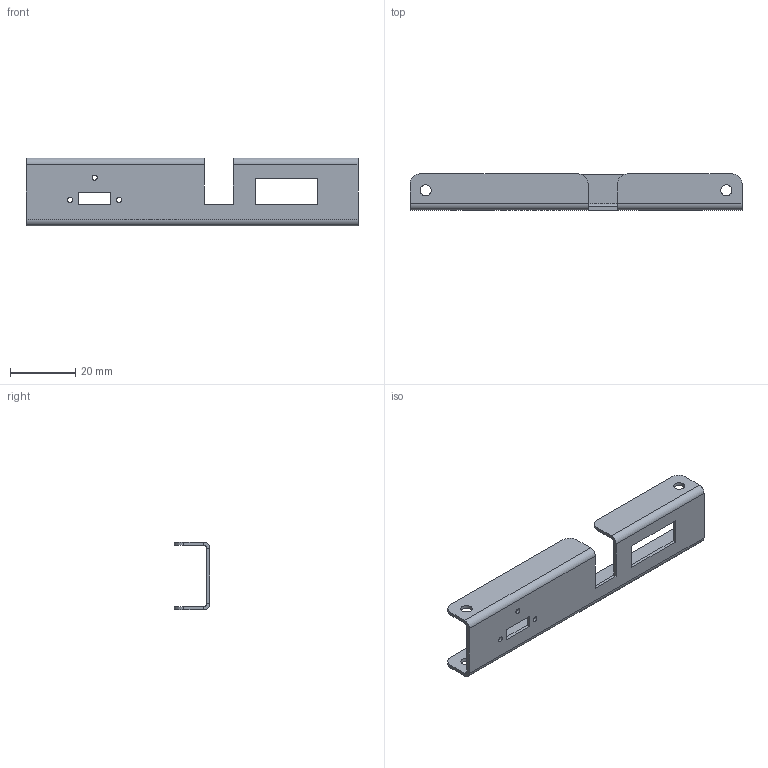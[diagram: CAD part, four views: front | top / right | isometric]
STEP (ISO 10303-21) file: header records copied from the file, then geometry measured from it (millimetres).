
FILE_DESCRIPTION(('FreeCAD Model'),'2;1');
FILE_NAME('Open CASCADE Shape Model','2024-12-24T12:00:08',(''),(''), 'Open CASCADE STEP processor 7.6','FreeCAD','Unknown');
FILE_SCHEMA(('AUTOMOTIVE_DESIGN { 1 0 10303 214 1 1 1 1 }'));
Length unit declared in the file: millimetre
Products named in the file (1): Fillet
Bounding box: 101.6 x 11.01 x 20.8 mm (x, y, z)
Volume: 3560.5 mm3; surface area: 7582 mm2
Topology: 1 solids, 1 shells, 51 faces, 131 edges, 82 vertices
Faces by surface type: plane 32, cylinder 19
Full cylindrical faces by diameter (mm): 1.6 x3, 3.4 x4
Entity records: 1593 total; most frequent: DIRECTION 273, CARTESIAN_POINT 265, ORIENTED_EDGE 262, EDGE_CURVE 131, LINE 93, VECTOR 93, AXIS2_PLACEMENT_3D 90, VERTEX_POINT 82
